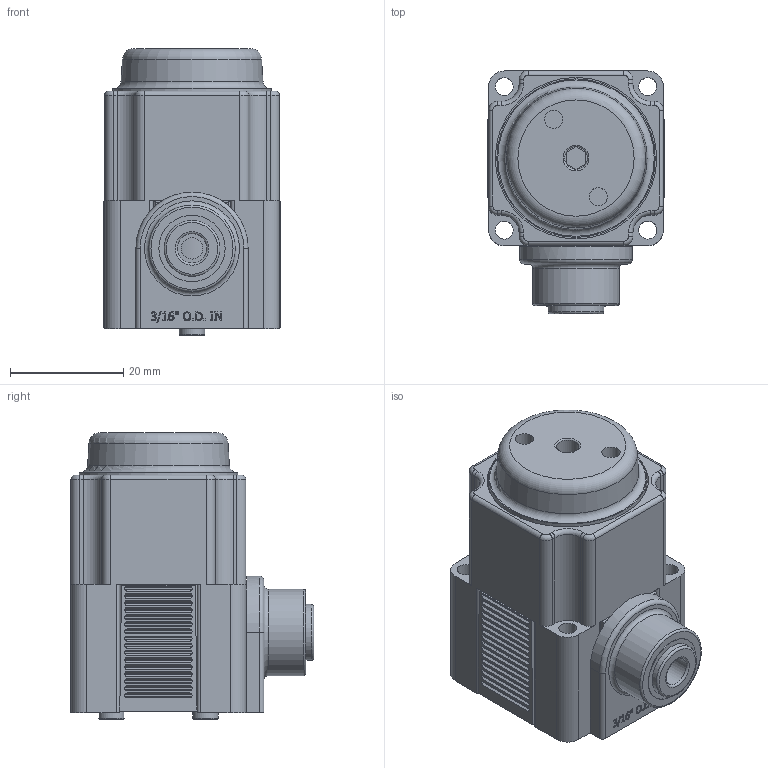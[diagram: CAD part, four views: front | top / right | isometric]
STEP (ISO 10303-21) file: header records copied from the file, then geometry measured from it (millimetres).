
FILE_DESCRIPTION(/* description */ (''),/* implementation_level */ '2;1');
FILE_NAME(/* name */ 'K:\Normteile INVENTOR\Air-Logic\Regulators\PR6000\PR 6___ 4 Push-In Fitting for 3''16 O.D. Tube In.igs.ipt.stp',/* time_stamp */ '2020-05-27T10:52:51+02:00',/* author */ ('Paul'),/* organization */ (''),/* preprocessor_version */ 'ST-DEVELOPER v18',/* originating_system */ 'Autodesk Inventor 2020',/* authorisation */ '');
FILE_SCHEMA (('AUTOMOTIVE_DESIGN { 1 0 10303 214 3 1 1 }'));
Length unit declared in the file: inch
Products named in the file (1): PR 6___ 4 Push-In Fitting for 3'16 O.D. Tube In.igs
Bounding box: 31.19 x 43.08 x 50.78 mm (x, y, z)
Volume: 41499.2 mm3; surface area: 13736.7 mm2
Topology: 1 solids, 1 shells, 804 faces, 2084 edges, 1374 vertices
Faces by surface type: plane 412, cylinder 274, bspline 81, torus 34, cone 3
Full cylindrical faces by diameter (mm): 1.194 x1, 2.032 x1, 3.124 x2, 3.175 x8, 3.226 x2, 3.785 x1, 4.013 x1, 4.521 x2, 5.207 x1, 6.045 x1, 8.382 x2, 9.169 x1, 9.398 x1, 9.906 x1, 11.735 x1, 12.903 x1, 15.291 x1, 25.781 x1, 28.047 x1, 28.575 x1
Entity records: 29145 total; most frequent: CARTESIAN_POINT 8474, ORIENTED_EDGE 4168, DIRECTION 4109, EDGE_CURVE 2084, AXIS2_PLACEMENT_3D 1554, VERTEX_POINT 1374, LINE 1001, VECTOR 1001
